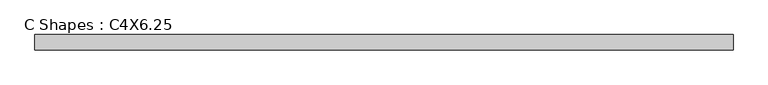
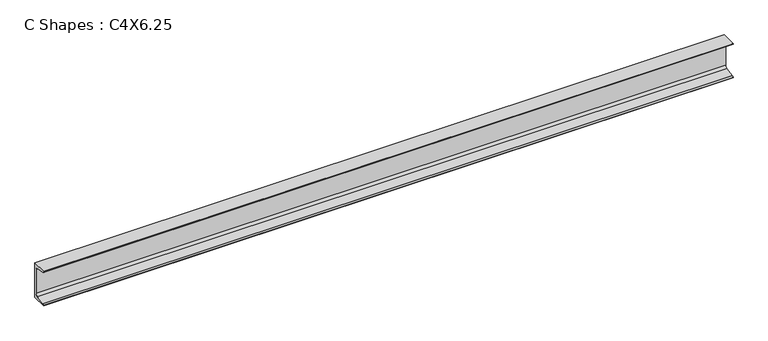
"""IFC4 building model written with IfcOpenShell, lengths in millimetres: beam geometry, C Shapes : C4X6.25."""

from ifc_helpers import new_model, si_unit, point, frame, frame_2d, origin, place, context, project, spatial, polyline, circle_curve, trimmed, segment, composite_curve, outline, extrude, source, transform, mapped, element, save


def c_shapes_c4x6_25_b39816fb(model_context):
    return source(origin(), model_context, "Body", "SweptSolid", [
        extrude(outline(composite_curve([segment(polyline([(11.049, 50.8), (11.049, -50.8), (-30.861, -50.8), (-30.861, -49.7865772)]), True, "CONTINUOUS"), segment(trimmed(circle_curve(frame_2d((-27.4066, -49.7865772)), 3.4544), [point((-30.861, -49.7865772))], [point((-27.9743618, -46.379155))], False, "CARTESIAN"), True, "CONTINUOUS"), segment(polyline([(-27.9743618, -46.379155), (-0.9980765, -41.8842311)]), True, "CONTINUOUS"), segment(trimmed(circle_curve(frame_2d((-2.1336, -35.0693868)), 6.9088), [point((-0.9980765, -41.8842311))], [point((4.7752, -35.0693868))], True, "CARTESIAN"), True, "CONTINUOUS"), segment(polyline([(4.7752, -35.0693868), (4.7752, 35.0693868)]), True, "CONTINUOUS"), segment(trimmed(circle_curve(frame_2d((-2.1336, 35.0693868)), 6.9088), [point((4.7752, 35.0693868))], [point((-0.9980765, 41.8842311))], True, "CARTESIAN"), True, "CONTINUOUS"), segment(polyline([(-0.9980765, 41.8842311), (-27.9743618, 46.379155)]), True, "CONTINUOUS"), segment(trimmed(circle_curve(frame_2d((-27.4066, 49.7865772)), 3.4544), [point((-27.9743618, 46.379155))], [point((-30.861, 49.7865772))], False, "CARTESIAN"), True, "CONTINUOUS"), segment(polyline([(-30.861, 49.7865772), (-30.861, 50.8), (11.049, 50.8)]), True, "CONTINUOUS")], self_intersect=False)), frame((-962.7839546, 0.0, 0.0), z_axis=(1.0, 0.0, 0.0), x_axis=(0.0, 1.0, 0.0)), (0.0, 0.0, 1.0), 1925.5663884),
    ])


if __name__ == "__main__":
    model = new_model("IFC4")
    model_context = context("Model", 3, world=origin())
    ifc_project = project(units=[si_unit("LENGTHUNIT", "METRE", prefix="MILLI")], contexts=[model_context])
    site = spatial("IfcSite", under=ifc_project)
    building = spatial("IfcBuilding", under=site)
    placement = place(None, origin())
    c_shapes_c4x6_25_shape = c_shapes_c4x6_25_b39816fb(model_context)
    element("IfcBeam", 1, ObjectType="C Shapes : C4X6.25", at=placement, inside=building, context=model_context, shape_type="MappedRepresentation", body=[
        mapped(c_shapes_c4x6_25_shape, transform((0.0, 0.0, 0.0), x_axis=(1.0, 0.0, 0.0), y_axis=(0.0, 1.0, 0.0), z_axis=(0.0, 0.0, 1.0))),
    ])
    save(model, "model.ifc")
